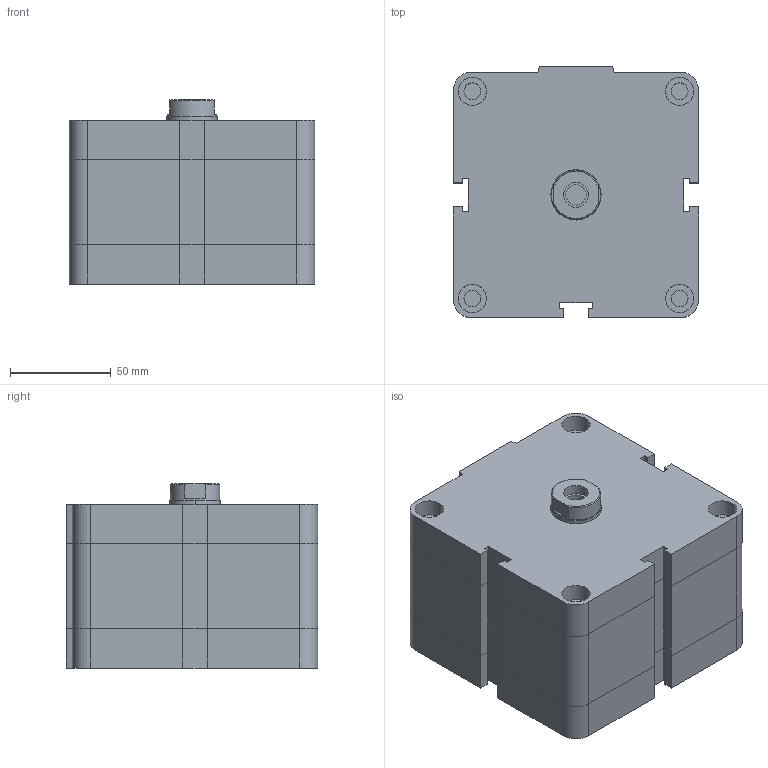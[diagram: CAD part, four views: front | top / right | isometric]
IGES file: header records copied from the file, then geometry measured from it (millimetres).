
Global section: file name: No Iges File Name specified; native system: Autodesk Inventor 2009; preprocessor: AutoDesk Inventor Iges Exporter R2009; author: rivolro1; date: 20081219.155339; units: millimetre
Bounding box: 122 x 125 x 91.5 mm (x, y, z)
Volume: 1175041.7 mm3; surface area: 88663.9 mm2
Topology: 2 solids, 2 shells, 187 faces, 410 edges, 248 vertices
Faces by surface type: plane 112, bspline 39, revolution 16, cylinder 16, cone 4
